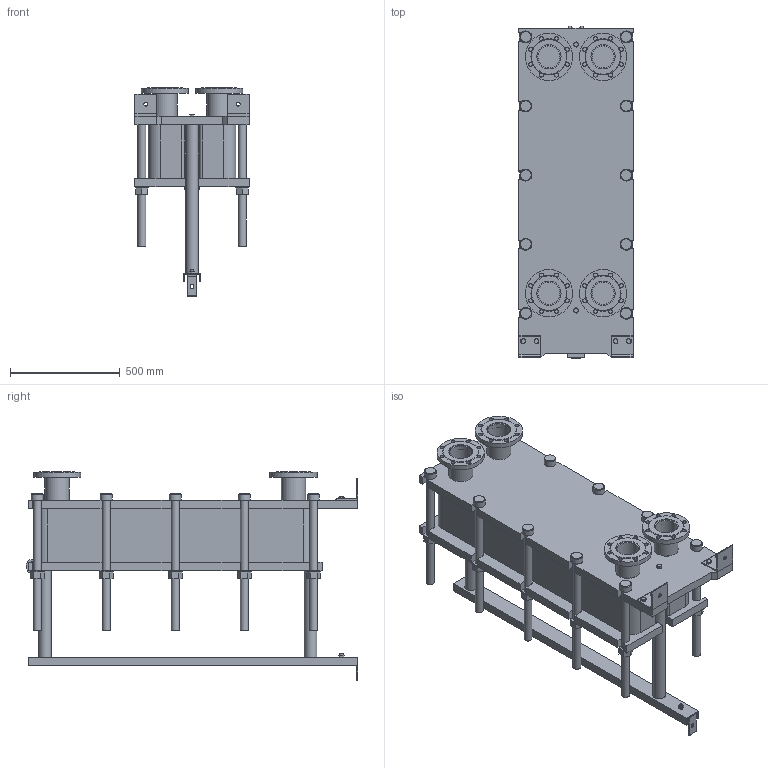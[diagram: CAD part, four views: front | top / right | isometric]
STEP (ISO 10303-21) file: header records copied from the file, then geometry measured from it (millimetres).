
FILE_DESCRIPTION(/* description */ (''),/* implementation_level */ '2;1');
FILE_NAME(/* name */ 'C:\Users\zhuro\Desktop\ENCO\TO\ЭН-04\ЭН-0,5-04-70-1.stp',/* time_stamp */ '2022-06-06T10:50:40+03:00',/* author */ ('zhuro'),/* organization */ (''),/* preprocessor_version */ 'ST-DEVELOPER v18.1',/* originating_system */ 'Autodesk Inventor 2022',/* authorisation */ '');
FILE_SCHEMA (('AUTOMOTIVE_DESIGN { 1 0 10303 214 3 1 1 }'));
Length unit declared in the file: millimetre
Products named in the file (1): ЭН-0,5-04-70-1
Bounding box: 520 x 1510 x 950 mm (x, y, z)
Volume: 190281991.5 mm3; surface area: 7695559.1 mm2
Topology: 45 solids, 45 shells, 668 faces, 1611 edges, 1048 vertices
Faces by surface type: plane 457, cylinder 166, cone 39, torus 6
Full cylindrical faces by diameter (mm): 8 x4, 10 x2, 16 x8, 18 x35, 36 x25, 40 x2, 42 x1, 45 x4, 54 x10, 57 x2, 60 x10, 68 x2, 100 x4, 110 x8, 215 x4
Entity records: 23607 total; most frequent: CARTESIAN_POINT 7348, DIRECTION 3371, ORIENTED_EDGE 3142, EDGE_CURVE 1571, AXIS2_PLACEMENT_3D 1199, VERTEX_POINT 1044, LINE 973, VECTOR 973
